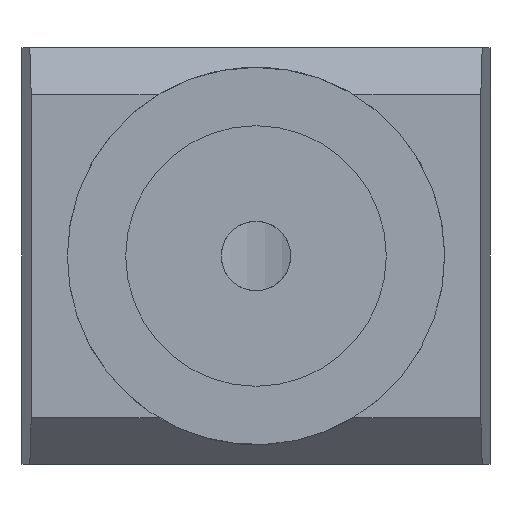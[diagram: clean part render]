
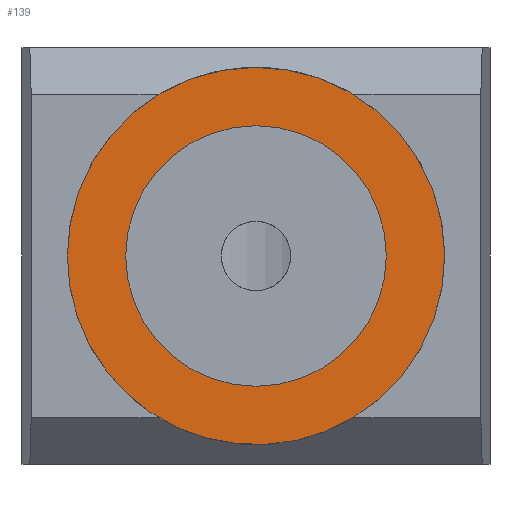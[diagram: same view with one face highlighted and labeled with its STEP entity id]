
A CAD part, left-side view. The second image highlights one B-rep face of the part: STEP entity #139.
In plain terms, the highlighted planar face has unit normal (-1, 0, 0).
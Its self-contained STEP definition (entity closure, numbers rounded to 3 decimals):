
#139 = ADVANCED_FACE( '', ( #307, #308 ), #309, .F. );
#307 = FACE_OUTER_BOUND( '', #504, .T. );
#308 = FACE_BOUND( '', #505, .T. );
#309 = PLANE( '', #506 );
#504 = EDGE_LOOP( '', ( #808 ) );
#505 = EDGE_LOOP( '', ( #809 ) );
#506 = AXIS2_PLACEMENT_3D( '', #810, #811, #812 );
#808 = ORIENTED_EDGE( '', *, *, #1038, .F. );
#809 = ORIENTED_EDGE( '', *, *, #1025, .T. );
#810 = CARTESIAN_POINT( '', ( -110.967, 0., -20. ) );
#811 = DIRECTION( '', ( 1., 0., 0. ) );
#812 = DIRECTION( '', ( 0., 0., -1. ) );
#1025 = EDGE_CURVE( '', #1201, #1201, #1202, .T. );
#1038 = EDGE_CURVE( '', #1223, #1223, #1224, .T. );
#1201 = VERTEX_POINT( '', #1503 );
#1202 = CIRCLE( '', #1504, 12.5 );
#1223 = VERTEX_POINT( '', #1641 );
#1224 = CIRCLE( '', #1642, 18.1 );
#1503 = CARTESIAN_POINT( '', ( -110.967, 12.5, -20. ) );
#1504 = AXIS2_PLACEMENT_3D( '', #2256, #2257, #2258 );
#1641 = CARTESIAN_POINT( '', ( -110.967, 18.1, -20. ) );
#1642 = AXIS2_PLACEMENT_3D( '', #2271, #2272, #2273 );
#2256 = CARTESIAN_POINT( '', ( -110.967, 0., -20. ) );
#2257 = DIRECTION( '', ( 1., 0., 0. ) );
#2258 = DIRECTION( '', ( 0., 1., 0. ) );
#2271 = CARTESIAN_POINT( '', ( -110.967, 0., -20. ) );
#2272 = DIRECTION( '', ( 1., 0., 0. ) );
#2273 = DIRECTION( '', ( 0., 1., 0. ) );
